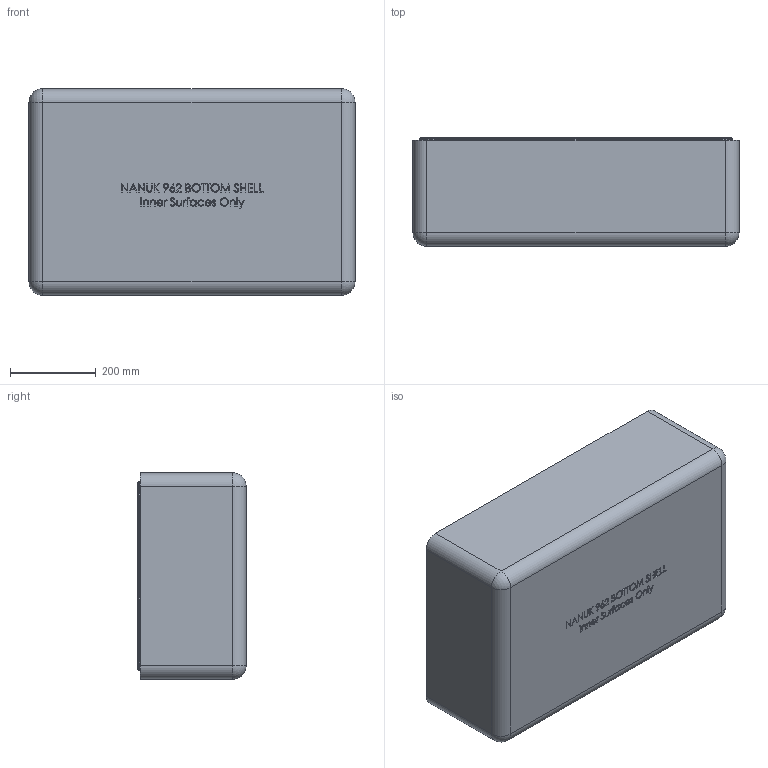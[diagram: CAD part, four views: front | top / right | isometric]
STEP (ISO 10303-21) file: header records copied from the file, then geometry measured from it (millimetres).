
FILE_DESCRIPTION (( 'STEP AP203' ), '1' );
FILE_NAME ('NANUK_962_Bottom Shell_INNER SURFS_Steps.STEP', '2023-01-24T13:41:59', ( 'Sylvain' ), ( '' ), 'SwSTEP 2.0', 'SolidWorks 2022', '' );
FILE_SCHEMA (( 'CONFIG_CONTROL_DESIGN' ));
Products named in the file (1): NANUK_962_Bottom Shell_INNER SURFS_Steps
Bounding box: 762 x 252.98 x 482.6 mm (x, y, z)
Volume: 35885068.8 mm3; surface area: 1794988.1 mm2
Topology: 1 solids, 1 shells, 1780 faces, 4494 edges, 2659 vertices
Faces by surface type: bspline 798, plane 503, cylinder 314, cone 70, sphere 52, torus 43
Entity records: 89798 total; most frequent: CARTESIAN_POINT 53894, ORIENTED_EDGE 8740, DIRECTION 5613, EDGE_CURVE 4370, VERTEX_POINT 2659, AXIS2_PLACEMENT_3D 1889, EDGE_LOOP 1849, VECTOR 1835
